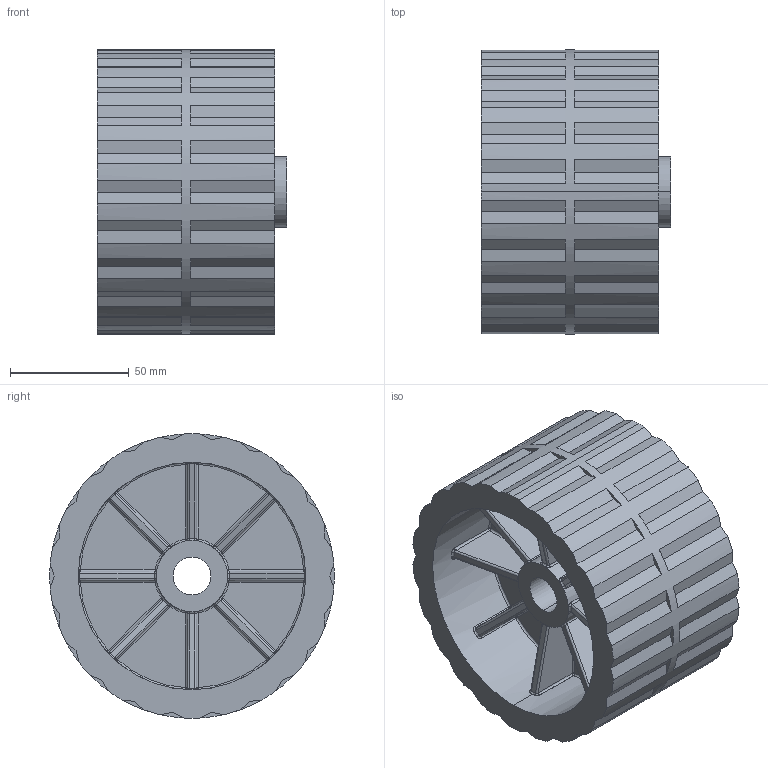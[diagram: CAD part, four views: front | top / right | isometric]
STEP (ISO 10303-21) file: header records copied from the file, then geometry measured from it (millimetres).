
FILE_DESCRIPTION (( 'STEP AP203' ), '1' );
FILE_NAME ('02.029.05.STEP', '2024-07-10T08:43:46', ( '' ), ( '' ), 'SwSTEP 2.0', 'SolidWorks 2023', '' );
FILE_SCHEMA (( 'CONFIG_CONTROL_DESIGN' ));
Length unit declared in the file: millimetre
Products named in the file (1): 02.029.05
Bounding box: 80 x 119.95 x 120 mm (x, y, z)
Volume: 400288.1 mm3; surface area: 96203 mm2
Topology: 1 solids, 1 shells, 569 faces, 1420 edges, 816 vertices
Faces by surface type: plane 200, cylinder 152, bspline 112, sphere 73, torus 32
Entity records: 19863 total; most frequent: CARTESIAN_POINT 7309, ORIENTED_EDGE 2716, DIRECTION 2588, EDGE_CURVE 1358, AXIS2_PLACEMENT_3D 1000, VERTEX_POINT 793, LINE 588, VECTOR 588
